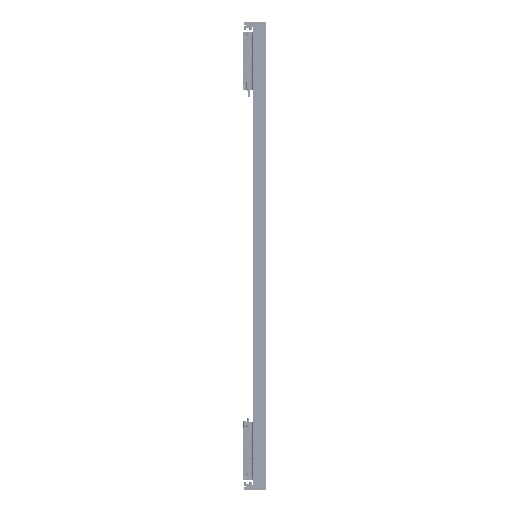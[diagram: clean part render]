
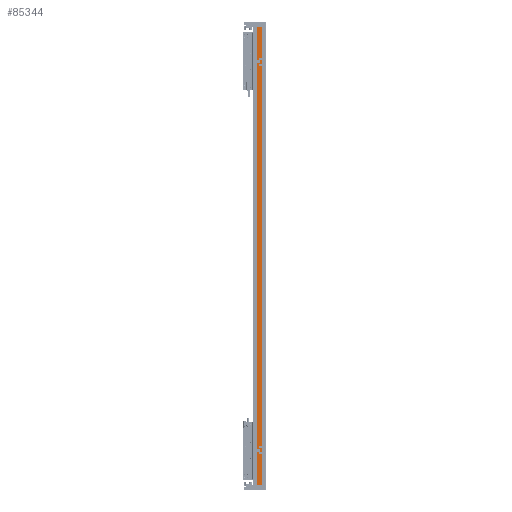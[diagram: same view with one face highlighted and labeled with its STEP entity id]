
A CAD part, left-side view. The second image highlights one B-rep face of the part: STEP entity #85344.
In plain terms, the highlighted planar face has unit normal (-1, 0, 0).
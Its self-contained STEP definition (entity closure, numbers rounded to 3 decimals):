
#4359 = EDGE_CURVE ( 'NONE', #130850, #38508, #115148, .T. ) ;
#4838 = VECTOR ( 'NONE', #115768, 1000. ) ;
#7037 = LINE ( 'NONE', #48296, #50470 ) ;
#9532 = CARTESIAN_POINT ( 'NONE',  ( -82.5, 36.95, 990. ) ) ;
#11443 = LINE ( 'NONE', #81825, #127470 ) ;
#13058 = DIRECTION ( 'NONE',  ( 0., 0., -1. ) ) ;
#25191 = CARTESIAN_POINT ( 'NONE',  ( -82.5, 36.95, 990. ) ) ;
#35511 = VECTOR ( 'NONE', #13058, 1000. ) ;
#36612 = AXIS2_PLACEMENT_3D ( 'NONE', #25191, #63807, #96884 ) ;
#36857 = ORIENTED_EDGE ( 'NONE', *, *, #75372, .F. ) ;
#38508 = VERTEX_POINT ( 'NONE', #120337 ) ;
#44830 = CARTESIAN_POINT ( 'NONE',  ( -82.5, 36.95, 990. ) ) ;
#48262 = ORIENTED_EDGE ( 'NONE', *, *, #115727, .T. ) ;
#48296 = CARTESIAN_POINT ( 'NONE',  ( -82.5, 36.95, 990. ) ) ;
#50470 = VECTOR ( 'NONE', #89563, 1000. ) ;
#58924 = VERTEX_POINT ( 'NONE', #104060 ) ;
#63807 = DIRECTION ( 'NONE',  ( 1., 0., 0. ) ) ;
#73983 = FACE_OUTER_BOUND ( 'NONE', #106045, .T. ) ;
#75372 = EDGE_CURVE ( 'NONE', #85767, #58924, #84742, .T. ) ;
#81825 = CARTESIAN_POINT ( 'NONE',  ( -82.5, 36.95, -990. ) ) ;
#84742 = LINE ( 'NONE', #103630, #4838 ) ;
#85344 = ADVANCED_FACE ( 'NONE', ( #73983 ), #86109, .F. ) ;
#85767 = VERTEX_POINT ( 'NONE', #126315 ) ;
#86109 = PLANE ( 'NONE',  #36612 ) ;
#89563 = DIRECTION ( 'NONE',  ( 0., -1., 0. ) ) ;
#93962 = DIRECTION ( 'NONE',  ( 0., -1., 0. ) ) ;
#96504 = ORIENTED_EDGE ( 'NONE', *, *, #4359, .T. ) ;
#96884 = DIRECTION ( 'NONE',  ( 0., 1., 0. ) ) ;
#101002 = EDGE_CURVE ( 'NONE', #130850, #85767, #7037, .T. ) ;
#103630 = CARTESIAN_POINT ( 'NONE',  ( -82.5, 14.45, 990. ) ) ;
#104060 = CARTESIAN_POINT ( 'NONE',  ( -82.5, 14.45, -990. ) ) ;
#106045 = EDGE_LOOP ( 'NONE', ( #48262, #36857, #123467, #96504 ) ) ;
#115148 = LINE ( 'NONE', #44830, #35511 ) ;
#115727 = EDGE_CURVE ( 'NONE', #38508, #58924, #11443, .T. ) ;
#115768 = DIRECTION ( 'NONE',  ( 0., 0., -1. ) ) ;
#120337 = CARTESIAN_POINT ( 'NONE',  ( -82.5, 36.95, -990. ) ) ;
#123467 = ORIENTED_EDGE ( 'NONE', *, *, #101002, .F. ) ;
#126315 = CARTESIAN_POINT ( 'NONE',  ( -82.5, 14.45, 990. ) ) ;
#127470 = VECTOR ( 'NONE', #93962, 1000. ) ;
#130850 = VERTEX_POINT ( 'NONE', #9532 ) ;
